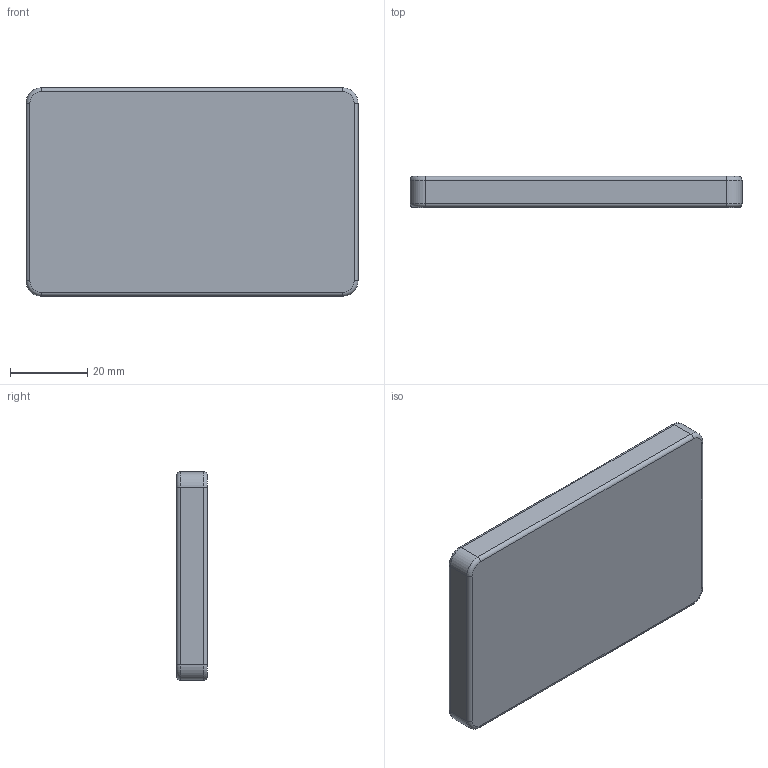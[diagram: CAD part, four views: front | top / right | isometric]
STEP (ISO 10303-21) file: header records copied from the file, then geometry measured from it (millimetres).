
FILE_DESCRIPTION(/* description */ (''),/* implementation_level */ '2;1');
FILE_NAME(/* name */ 'C:\Users\Marco-Typh\Documents\PROJETS\EN COURS\PORTE CARTE\devis dissimilis.stp',/* time_stamp */ '2016-07-15T23:27:00+02:00',/* author */ ('Marco-Typh'),/* organization */ (''),/* preprocessor_version */ 'ST-DEVELOPER v16.5',/* originating_system */ 'Autodesk Inventor 2017',/* authorisation */ '');
FILE_SCHEMA (('AUTOMOTIVE_DESIGN { 1 0 10303 214 3 1 1 }'));
Length unit declared in the file: millimetre
Products named in the file (1): porte carte paracorde
Bounding box: 86 x 8 x 54 mm (x, y, z)
Volume: 36903.6 mm3; surface area: 11501.4 mm2
Topology: 1 solids, 1 shells, 328 faces, 917 edges, 606 vertices
Faces by surface type: plane 233, bspline 75, cylinder 12, torus 8
Entity records: 11237 total; most frequent: CARTESIAN_POINT 2924, ORIENTED_EDGE 1834, DIRECTION 1307, EDGE_CURVE 917, LINE 735, VECTOR 735, VERTEX_POINT 606, EDGE_LOOP 343
